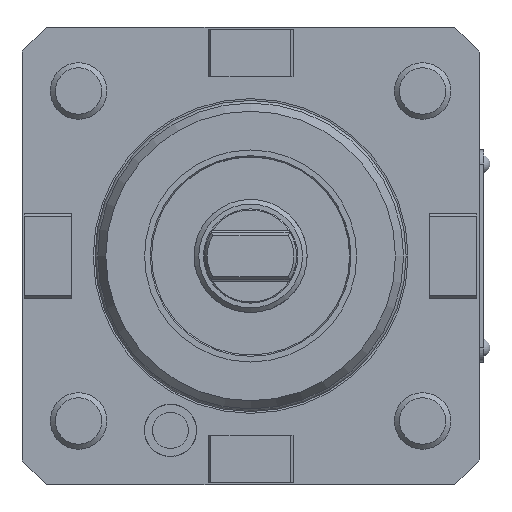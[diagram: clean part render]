
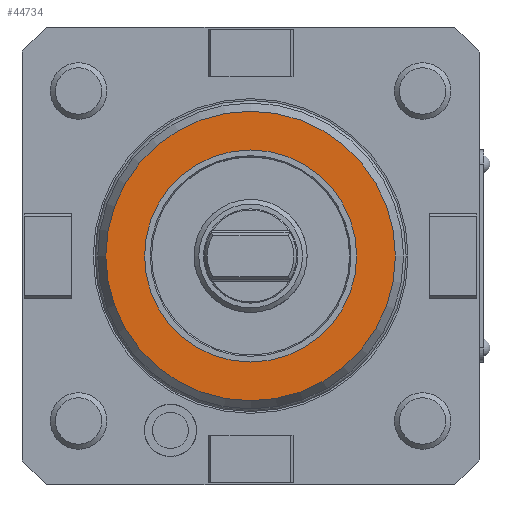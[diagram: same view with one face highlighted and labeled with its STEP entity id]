
A CAD part, left-side view. The second image highlights one B-rep face of the part: STEP entity #44734.
In plain terms, the highlighted planar face has unit normal (-1, 0, 0).
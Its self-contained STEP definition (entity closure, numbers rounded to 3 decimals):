
#20569=PLANE('',#43620);
#21325=ORIENTED_EDGE('',*,*,#25949,.F.);
#21326=ORIENTED_EDGE('',*,*,#25950,.T.);
#24311=CIRCLE('',#43619,30.718);
#24312=CIRCLE('',#43621,22.5);
#24825=VERTEX_POINT('',#33342);
#24826=VERTEX_POINT('',#33345);
#25949=EDGE_CURVE('',#24825,#24825,#24311,.T.);
#25950=EDGE_CURVE('',#24826,#24826,#24312,.T.);
#27477=EDGE_LOOP('',(#21325));
#27478=EDGE_LOOP('',(#21326));
#28398=FACE_BOUND('',#27477,.T.);
#28399=FACE_BOUND('',#27478,.T.);
#29488=DIRECTION('',(1.,0.,0.));
#29489=DIRECTION('',(0.,0.,30.718));
#29490=DIRECTION('',(-1.,0.,0.));
#29491=DIRECTION('',(0.,1.,0.));
#29492=DIRECTION('',(1.,0.,0.));
#29493=DIRECTION('',(0.,0.,22.5));
#33342=CARTESIAN_POINT('',(-32.,0.,30.718));
#33343=CARTESIAN_POINT('',(-32.,0.,0.));
#33344=CARTESIAN_POINT('',(-32.,0.,30.718));
#33345=CARTESIAN_POINT('',(-32.,0.,22.5));
#33346=CARTESIAN_POINT('',(-32.,0.,0.));
#43619=AXIS2_PLACEMENT_3D('',#33343,#29488,#29489);
#43620=AXIS2_PLACEMENT_3D('',#33344,#29490,#29491);
#43621=AXIS2_PLACEMENT_3D('',#33346,#29492,#29493);
#44734=ADVANCED_FACE('',(#28398,#28399),#20569,.T.);
